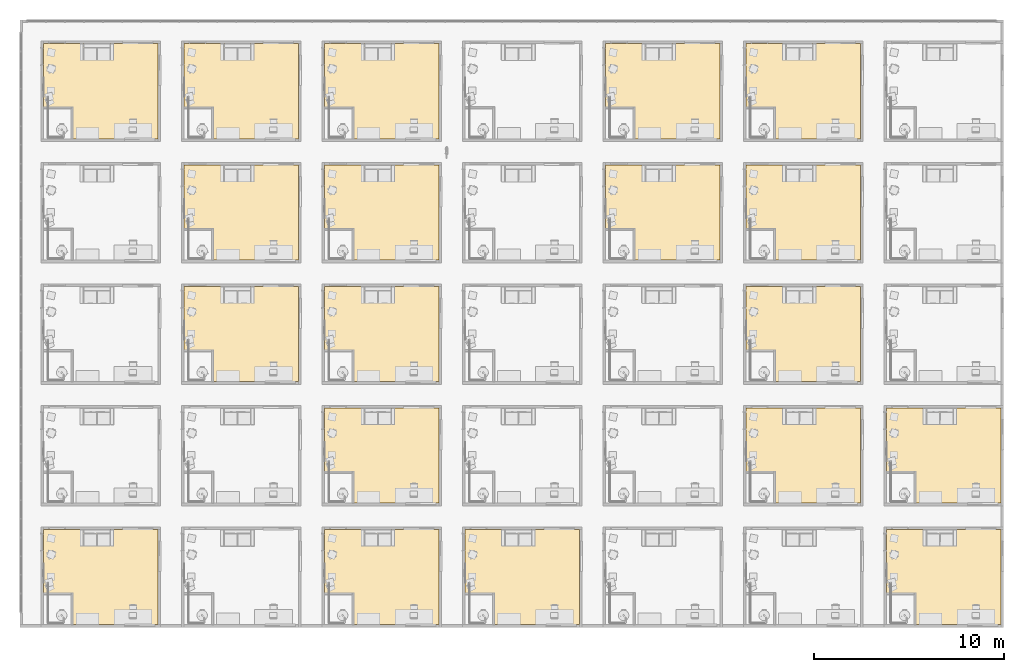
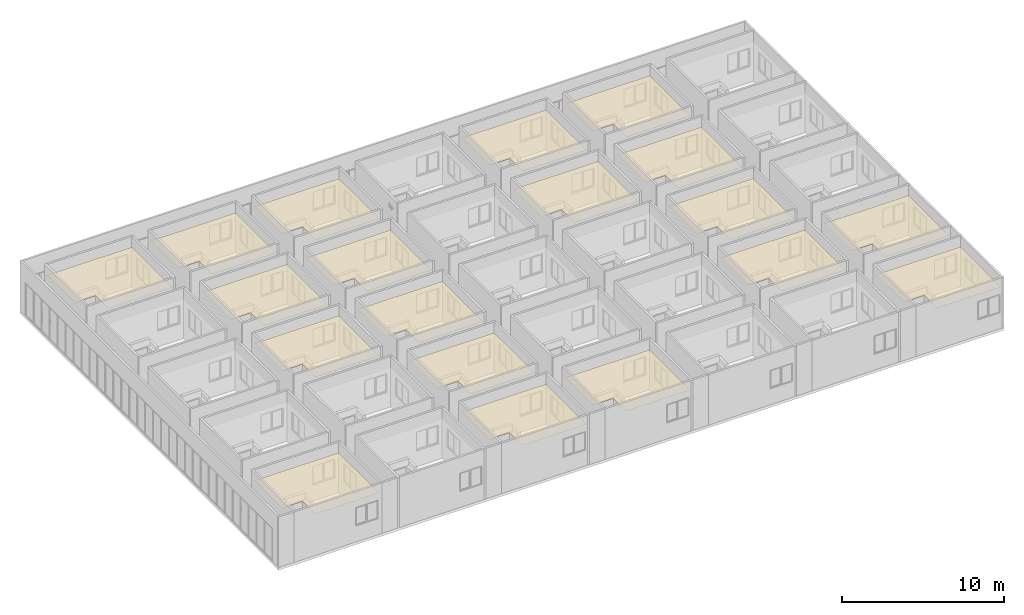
# One storey, part 12 of 69: 19 coverings.
"""IFC4 building model written with IfcOpenShell, lengths in centimetres."""

from ifc_helpers import new_model, entity, si_unit, converted_unit, derived_unit, direction, frame, origin, place, context, subcontext, project, spatial, polygons, type_object, element, save


model = new_model("IFC4")

# Units and contexts
model_context = context("Model", 3, precision=0.001, world=origin(), true_north=direction((6.123233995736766e-17, 1.0)))
body_context = subcontext(model_context, "Body", "Model", "MODEL_VIEW")
ifc_project = project(units=[si_unit("LENGTHUNIT", "METRE", prefix="CENTI"), si_unit("AREAUNIT", "SQUARE_METRE"), si_unit("VOLUMEUNIT", "CUBIC_METRE"), derived_unit("THERMALTRANSMITTANCEUNIT", [(si_unit("MASSUNIT", "GRAM", prefix="KILO"), 1), (si_unit("THERMODYNAMICTEMPERATUREUNIT", "KELVIN"), -1), (si_unit("TIMEUNIT", "SECOND"), -3)]), converted_unit("PLANEANGLEUNIT", "DEGREE", entity("IfcPlaneAngleMeasure", 0.017453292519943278), si_unit("PLANEANGLEUNIT", "RADIAN"), dimensions=[0, 0, 0, 0, 0, 0, 0]), derived_unit("MASSDENSITYUNIT", [(si_unit("MASSUNIT", "GRAM", prefix="KILO"), 1), (si_unit("LENGTHUNIT", "METRE"), -3)]), derived_unit("VAPORPERMEABILITYUNIT", [(si_unit("LENGTHUNIT", "METRE"), -1), (si_unit("TIMEUNIT", "SECOND"), 1)]), derived_unit("USERDEFINED", [(si_unit("MASSUNIT", "GRAM", prefix="KILO"), 1), (si_unit("TIMEUNIT", "SECOND"), -3), (si_unit("LENGTHUNIT", "METRE"), 3), (si_unit("ELECTRICCURRENTUNIT", "AMPERE"), -2)]), derived_unit("SPECIFICHEATCAPACITYUNIT", [(si_unit("THERMODYNAMICTEMPERATUREUNIT", "KELVIN"), -1), (si_unit("LENGTHUNIT", "METRE"), 2), (si_unit("TIMEUNIT", "SECOND"), -2)]), derived_unit("THERMALCONDUCTANCEUNIT", [(si_unit("MASSUNIT", "GRAM", prefix="KILO"), 1), (si_unit("THERMODYNAMICTEMPERATUREUNIT", "KELVIN"), -1), (si_unit("TIMEUNIT", "SECOND"), -3), (si_unit("LENGTHUNIT", "METRE"), 1)]), si_unit("PRESSUREUNIT", "PASCAL"), derived_unit("MODULUSOFELASTICITYUNIT", [(si_unit("MASSUNIT", "GRAM", prefix="KILO"), 1), (si_unit("LENGTHUNIT", "METRE"), -1), (si_unit("TIMEUNIT", "SECOND"), -2)]), derived_unit("THERMALEXPANSIONCOEFFICIENTUNIT", [(si_unit("THERMODYNAMICTEMPERATUREUNIT", "KELVIN"), -1)])], contexts=[model_context])

# Site, building, storey
site_placement = place(None, origin())
site = spatial("IfcSite", under=ifc_project, at=site_placement, Name="Default", CompositionType="ELEMENT")
building_placement = place(site_placement, origin())
building = spatial("IfcBuilding", under=site, at=building_placement, Name="IDS Escape Game Building", CompositionType="ELEMENT")
storey_placement = place(building_placement, origin())
storey = spatial("IfcBuildingStorey", under=building, at=storey_placement, Name="00_Ground Floor", CompositionType="ELEMENT", Elevation=0.0)

# Coverings
covering_type = type_object("IfcCoveringType", Name="Basic Ceiling:ARC_45_CEI_SB_PLxx_gen_BERSnl", PredefinedType="CEILING")
covering_1_placement = place(storey_placement, frame((7.0, 13.0, 300.0)))
element("IfcCovering", 1, at=covering_1_placement, inside=storey, type_object=covering_type, Name="Basic Ceiling:ARC_45_CEI_SB_PLxx_gen_BERSnl", ObjectType="Basic Ceiling:ARC_45_CEI_SB_PLxx_gen_BERSnl", PredefinedType="CEILING", context=body_context, shape_type="Tessellation", body=[
    polygons([(600.0, 499.9999999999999, 0.0), (0.0, 499.9999999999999, 0.0), (0.0, 158.00000000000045, 0.0), (145.00000000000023, 158.00000000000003, 0.0), (144.99999999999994, 0.0, 0.0), (600.0, 0.0, 0.0)], [[[1, 2, 3, 4, 5, 6]]], closed=False),
])
covering_2_placement = place(storey_placement, frame((1483.0, 13.0, 300.0)))
element("IfcCovering", 2, at=covering_2_placement, inside=storey, type_object=covering_type, Name="Basic Ceiling:ARC_45_CEI_SB_PLxx_gen_BERSnl", ObjectType="Basic Ceiling:ARC_45_CEI_SB_PLxx_gen_BERSnl", PredefinedType="CEILING", context=body_context, shape_type="Tessellation", body=[
    polygons([(600.0000000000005, 499.9999999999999, 0.0), (4.331468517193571e-13, 499.9999999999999, 0.0), (2.1657342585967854e-13, 158.00000000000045, 0.0), (145.0000000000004, 158.00000000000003, 0.0), (145.0000000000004, 0.0, 0.0), (600.0000000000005, 0.0, 0.0)], [[[1, 2, 3, 4, 5, 6]]], closed=False),
])
covering_3_placement = place(storey_placement, frame((2221.0, 13.0, 300.0)))
element("IfcCovering", 3, at=covering_3_placement, inside=storey, type_object=covering_type, Name="Basic Ceiling:ARC_45_CEI_SB_PLxx_gen_BERSnl", ObjectType="Basic Ceiling:ARC_45_CEI_SB_PLxx_gen_BERSnl", PredefinedType="CEILING", context=body_context, shape_type="Tessellation", body=[
    polygons([(600.0000000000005, 499.9999999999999, 0.0), (0.0, 499.9999999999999, 0.0), (4.331468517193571e-13, 158.00000000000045, 0.0), (145.00000000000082, 158.00000000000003, 0.0), (144.99999999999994, 0.0, 0.0), (600.0000000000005, 0.0, 0.0)], [[[1, 2, 3, 4, 5, 6]]], closed=False),
])
covering_4_placement = place(storey_placement, frame((4435.0, 13.0, 300.0)))
element("IfcCovering", 4, at=covering_4_placement, inside=storey, type_object=covering_type, Name="Basic Ceiling:ARC_45_CEI_SB_PLxx_gen_BERSnl", ObjectType="Basic Ceiling:ARC_45_CEI_SB_PLxx_gen_BERSnl", PredefinedType="CEILING", context=body_context, shape_type="Tessellation", body=[
    polygons([(599.9999999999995, 499.9999999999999, 0.0), (0.0, 499.9999999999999, 0.0), (0.0, 158.00000000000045, 0.0), (144.99999999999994, 158.00000000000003, 0.0), (144.99999999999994, 0.0, 0.0), (599.9999999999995, 0.0, 0.0)], [[[1, 2, 3, 4, 5, 6]]], closed=False),
])
covering_5_placement = place(storey_placement, frame((1483.0, 651.0, 300.0)))
element("IfcCovering", 5, at=covering_5_placement, inside=storey, type_object=covering_type, Name="Basic Ceiling:ARC_45_CEI_SB_PLxx_gen_BERSnl", ObjectType="Basic Ceiling:ARC_45_CEI_SB_PLxx_gen_BERSnl", PredefinedType="CEILING", context=body_context, shape_type="Tessellation", body=[
    polygons([(600.0, 499.99999999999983, 0.0), (0.0, 499.99999999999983, 0.0), (0.0, 158.00000000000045, 0.0), (145.00000000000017, 158.00000000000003, 0.0), (145.00000000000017, 0.0, 0.0), (600.0, 0.0, 0.0)], [[[1, 2, 3, 4, 5, 6]]], closed=False),
])
covering_6_placement = place(storey_placement, frame((3697.0, 651.0, 300.0)))
element("IfcCovering", 6, at=covering_6_placement, inside=storey, type_object=covering_type, Name="Basic Ceiling:ARC_45_CEI_SB_PLxx_gen_BERSnl", ObjectType="Basic Ceiling:ARC_45_CEI_SB_PLxx_gen_BERSnl", PredefinedType="CEILING", context=body_context, shape_type="Tessellation", body=[
    polygons([(600.0000000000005, 499.99999999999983, 0.0), (4.331468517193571e-13, 499.99999999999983, 0.0), (4.331468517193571e-13, 158.00000000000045, 0.0), (145.00000000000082, 158.00000000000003, 0.0), (144.99999999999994, 0.0, 0.0), (600.0000000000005, 0.0, 0.0)], [[[1, 2, 3, 4, 5, 6]]], closed=False),
])
covering_7_placement = place(storey_placement, frame((4435.0, 651.0, 300.0)))
element("IfcCovering", 7, at=covering_7_placement, inside=storey, type_object=covering_type, Name="Basic Ceiling:ARC_45_CEI_SB_PLxx_gen_BERSnl", ObjectType="Basic Ceiling:ARC_45_CEI_SB_PLxx_gen_BERSnl", PredefinedType="CEILING", context=body_context, shape_type="Tessellation", body=[
    polygons([(599.9999999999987, 499.99999999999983, 0.0), (-8.662937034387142e-13, 499.99999999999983, 0.0), (-8.662937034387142e-13, 158.00000000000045, 0.0), (144.9999999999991, 158.00000000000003, 0.0), (144.9999999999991, 0.0, 0.0), (599.9999999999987, 0.0, 0.0)], [[[1, 2, 3, 4, 5, 6]]], closed=False),
])
covering_8_placement = place(storey_placement, frame((745.0, 1289.0, 300.0)))
element("IfcCovering", 8, at=covering_8_placement, inside=storey, type_object=covering_type, Name="Basic Ceiling:ARC_45_CEI_SB_PLxx_gen_BERSnl", ObjectType="Basic Ceiling:ARC_45_CEI_SB_PLxx_gen_BERSnl", PredefinedType="CEILING", context=body_context, shape_type="Tessellation", body=[
    polygons([(600.0, 499.99999999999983, 0.0), (1.0828671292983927e-13, 499.99999999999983, 0.0), (1.0828671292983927e-13, 158.00000000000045, 0.0), (145.0000000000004, 158.00000000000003, 0.0), (145.00000000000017, 0.0, 0.0), (600.0, -2.1657342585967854e-13, 0.0)], [[[1, 2, 3, 4, 5, 6]]], closed=False),
])
covering_9_placement = place(storey_placement, frame((1483.0, 1289.0, 300.0)))
element("IfcCovering", 9, at=covering_9_placement, inside=storey, type_object=covering_type, Name="Basic Ceiling:ARC_45_CEI_SB_PLxx_gen_BERSnl", ObjectType="Basic Ceiling:ARC_45_CEI_SB_PLxx_gen_BERSnl", PredefinedType="CEILING", context=body_context, shape_type="Tessellation", body=[
    polygons([(600.0000000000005, 500.0, 0.0), (4.331468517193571e-13, 500.0, 0.0), (2.1657342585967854e-13, 158.00000000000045, 0.0), (145.0000000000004, 158.00000000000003, 0.0), (145.0000000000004, 0.0, 0.0), (600.0000000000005, 0.0, 0.0)], [[[1, 2, 3, 4, 5, 6]]], closed=False),
])
covering_10_placement = place(storey_placement, frame((3697.0, 1289.0, 300.0)))
element("IfcCovering", 10, at=covering_10_placement, inside=storey, type_object=covering_type, Name="Basic Ceiling:ARC_45_CEI_SB_PLxx_gen_BERSnl", ObjectType="Basic Ceiling:ARC_45_CEI_SB_PLxx_gen_BERSnl", PredefinedType="CEILING", context=body_context, shape_type="Tessellation", body=[
    polygons([(600.0000000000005, 500.0, 0.0), (4.331468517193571e-13, 500.0, 0.0), (4.331468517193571e-13, 158.00000000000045, 0.0), (145.00000000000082, 158.00000000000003, 0.0), (144.99999999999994, 0.0, 0.0), (600.0000000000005, 0.0, 0.0)], [[[1, 2, 3, 4, 5, 6]]], closed=False),
])
covering_11_placement = place(storey_placement, frame((745.0, 1927.0, 300.0)))
element("IfcCovering", 11, at=covering_11_placement, inside=storey, type_object=covering_type, Name="Basic Ceiling:ARC_45_CEI_SB_PLxx_gen_BERSnl", ObjectType="Basic Ceiling:ARC_45_CEI_SB_PLxx_gen_BERSnl", PredefinedType="CEILING", context=body_context, shape_type="Tessellation", body=[
    polygons([(600.0, 499.99999999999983, 0.0), (1.0828671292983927e-13, 499.99999999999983, 0.0), (1.0828671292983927e-13, 158.00000000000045, 0.0), (145.0000000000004, 158.00000000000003, 0.0), (145.00000000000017, 0.0, 0.0), (600.0, -2.1657342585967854e-13, 0.0)], [[[1, 2, 3, 4, 5, 6]]], closed=False),
])
covering_12_placement = place(storey_placement, frame((1483.0, 1927.0, 300.0)))
element("IfcCovering", 12, at=covering_12_placement, inside=storey, type_object=covering_type, Name="Basic Ceiling:ARC_45_CEI_SB_PLxx_gen_BERSnl", ObjectType="Basic Ceiling:ARC_45_CEI_SB_PLxx_gen_BERSnl", PredefinedType="CEILING", context=body_context, shape_type="Tessellation", body=[
    polygons([(600.0000000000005, 499.99999999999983, 0.0), (4.331468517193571e-13, 499.99999999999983, 0.0), (2.1657342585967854e-13, 158.00000000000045, 0.0), (145.0000000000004, 158.00000000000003, 0.0), (145.0000000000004, 0.0, 0.0), (600.0000000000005, 0.0, 0.0)], [[[1, 2, 3, 4, 5, 6]]], closed=False),
])
covering_13_placement = place(storey_placement, frame((2959.0, 1927.0, 300.0)))
element("IfcCovering", 13, at=covering_13_placement, inside=storey, type_object=covering_type, Name="Basic Ceiling:ARC_45_CEI_SB_PLxx_gen_BERSnl", ObjectType="Basic Ceiling:ARC_45_CEI_SB_PLxx_gen_BERSnl", PredefinedType="CEILING", context=body_context, shape_type="Tessellation", body=[
    polygons([(600.0000000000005, 499.99999999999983, 0.0), (0.0, 499.99999999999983, 0.0), (4.331468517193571e-13, 158.00000000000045, 0.0), (145.00000000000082, 158.00000000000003, 0.0), (144.99999999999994, 0.0, 0.0), (600.0000000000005, 0.0, 0.0)], [[[1, 2, 3, 4, 5, 6]]], closed=False),
])
covering_14_placement = place(storey_placement, frame((3697.0, 1927.0, 300.0)))
element("IfcCovering", 14, at=covering_14_placement, inside=storey, type_object=covering_type, Name="Basic Ceiling:ARC_45_CEI_SB_PLxx_gen_BERSnl", ObjectType="Basic Ceiling:ARC_45_CEI_SB_PLxx_gen_BERSnl", PredefinedType="CEILING", context=body_context, shape_type="Tessellation", body=[
    polygons([(600.0000000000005, 499.99999999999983, 0.0), (4.331468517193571e-13, 499.99999999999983, 0.0), (4.331468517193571e-13, 158.00000000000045, 0.0), (145.00000000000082, 158.00000000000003, 0.0), (144.99999999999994, 0.0, 0.0), (600.0000000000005, 0.0, 0.0)], [[[1, 2, 3, 4, 5, 6]]], closed=False),
])
covering_15_placement = place(storey_placement, frame((7.0, 2565.0, 300.0)))
element("IfcCovering", 15, at=covering_15_placement, inside=storey, type_object=covering_type, Name="Basic Ceiling:ARC_45_CEI_SB_PLxx_gen_BERSnl", ObjectType="Basic Ceiling:ARC_45_CEI_SB_PLxx_gen_BERSnl", PredefinedType="CEILING", context=body_context, shape_type="Tessellation", body=[
    polygons([(600.0, 500.0000000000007, 0.0), (0.0, 500.0000000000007, 0.0), (0.0, 158.00000000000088, 0.0), (145.00000000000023, 158.00000000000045, 0.0), (144.99999999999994, 4.331468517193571e-13, 0.0), (600.0, 4.331468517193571e-13, 0.0)], [[[1, 2, 3, 4, 5, 6]]], closed=False),
])
covering_16_placement = place(storey_placement, frame((745.0, 2565.0, 300.0)))
element("IfcCovering", 16, at=covering_16_placement, inside=storey, type_object=covering_type, Name="Basic Ceiling:ARC_45_CEI_SB_PLxx_gen_BERSnl", ObjectType="Basic Ceiling:ARC_45_CEI_SB_PLxx_gen_BERSnl", PredefinedType="CEILING", context=body_context, shape_type="Tessellation", body=[
    polygons([(600.0, 499.99999999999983, 0.0), (1.0828671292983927e-13, 499.99999999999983, 0.0), (1.0828671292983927e-13, 158.00000000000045, 0.0), (145.0000000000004, 158.00000000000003, 0.0), (145.00000000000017, 0.0, 0.0), (600.0, 0.0, 0.0)], [[[1, 2, 3, 4, 5, 6]]], closed=False),
])
covering_17_placement = place(storey_placement, frame((1483.0, 2565.0, 300.0)))
element("IfcCovering", 17, at=covering_17_placement, inside=storey, type_object=covering_type, Name="Basic Ceiling:ARC_45_CEI_SB_PLxx_gen_BERSnl", ObjectType="Basic Ceiling:ARC_45_CEI_SB_PLxx_gen_BERSnl", PredefinedType="CEILING", context=body_context, shape_type="Tessellation", body=[
    polygons([(600.0000000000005, 500.0000000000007, 0.0), (4.331468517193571e-13, 500.0000000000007, 0.0), (2.1657342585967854e-13, 158.00000000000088, 0.0), (145.0000000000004, 158.00000000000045, 0.0), (145.0000000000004, 4.331468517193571e-13, 0.0), (600.0000000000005, 4.331468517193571e-13, 0.0)], [[[1, 2, 3, 4, 5, 6]]], closed=False),
])
covering_18_placement = place(storey_placement, frame((2959.0, 2565.0, 300.0)))
element("IfcCovering", 18, at=covering_18_placement, inside=storey, type_object=covering_type, Name="Basic Ceiling:ARC_45_CEI_SB_PLxx_gen_BERSnl", ObjectType="Basic Ceiling:ARC_45_CEI_SB_PLxx_gen_BERSnl", PredefinedType="CEILING", context=body_context, shape_type="Tessellation", body=[
    polygons([(600.0000000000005, 500.0000000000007, 0.0), (0.0, 500.0000000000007, 0.0), (4.331468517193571e-13, 158.00000000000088, 0.0), (145.00000000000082, 158.00000000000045, 0.0), (144.99999999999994, 4.331468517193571e-13, 0.0), (600.0000000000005, 4.331468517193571e-13, 0.0)], [[[1, 2, 3, 4, 5, 6]]], closed=False),
])
covering_19_placement = place(storey_placement, frame((3697.0, 2565.0, 300.0)))
element("IfcCovering", 19, at=covering_19_placement, inside=storey, type_object=covering_type, Name="Basic Ceiling:ARC_45_CEI_SB_PLxx_gen_BERSnl", ObjectType="Basic Ceiling:ARC_45_CEI_SB_PLxx_gen_BERSnl", PredefinedType="CEILING", context=body_context, shape_type="Tessellation", body=[
    polygons([(600.0000000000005, 500.0000000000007, 0.0), (4.331468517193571e-13, 500.0000000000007, 0.0), (4.331468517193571e-13, 158.00000000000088, 0.0), (145.00000000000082, 158.00000000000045, 0.0), (144.99999999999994, 4.331468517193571e-13, 0.0), (600.0000000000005, 4.331468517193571e-13, 0.0)], [[[1, 2, 3, 4, 5, 6]]], closed=False),
])

save(model, "model.ifc")
